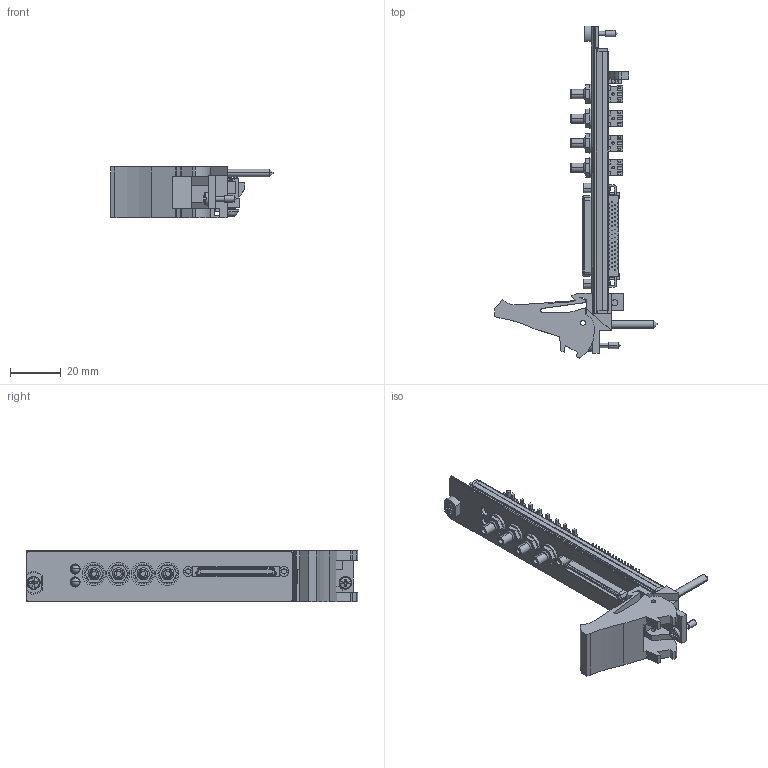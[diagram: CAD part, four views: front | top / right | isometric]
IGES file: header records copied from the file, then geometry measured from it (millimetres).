
Start section:  PTC IGES file: cu_pxi-5422.igs
Global section: file name: cu_pxi-5422.igs; native system: Pro/ENGINEER by Parametric Technology Corporation; preprocessor: 2006080; author: jjorden; organization: Unknown; date: 090930.121343; units: inch
Bounding box: 63.73 x 130.51 x 20.31 mm (x, y, z)
Surface area: 21074.5 mm2 (no closed solid volume)
Topology: 0 solids, 0 shells, 2081 faces, 11426 edges, 11414 vertices
Faces by surface type: bspline 1598, revolution 481, extrusion 2
